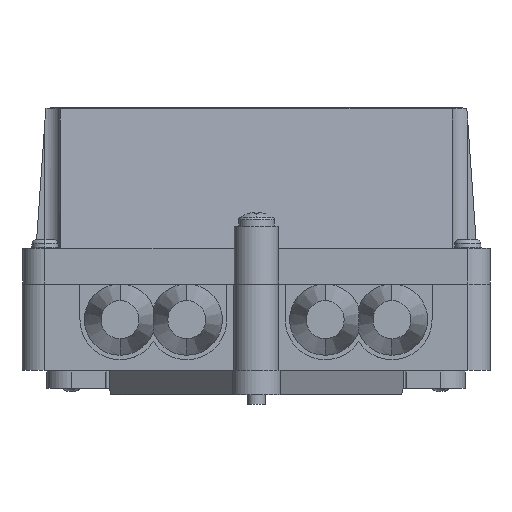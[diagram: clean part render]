
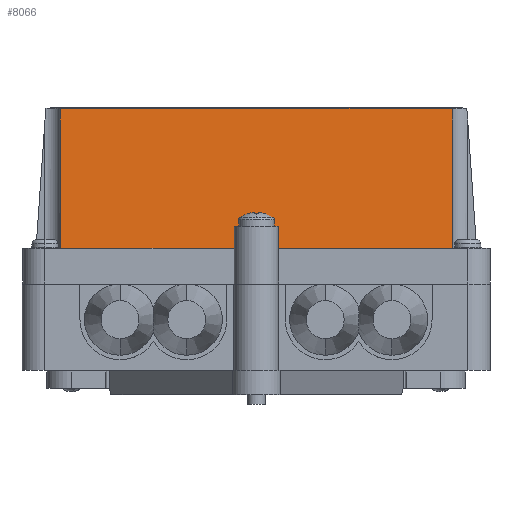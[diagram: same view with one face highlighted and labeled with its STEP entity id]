
A CAD part, front view. The second image highlights one B-rep face of the part: STEP entity #8066.
In plain terms, the highlighted planar face has unit normal (0, -0.998, 0.07).
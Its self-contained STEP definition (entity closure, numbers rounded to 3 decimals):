
#1527 =( BOUNDED_CURVE ( )  B_SPLINE_CURVE ( 3, ( #35055, #12301, #9552, #29576 ),
 .UNSPECIFIED., .F., .F. ) 
 B_SPLINE_CURVE_WITH_KNOTS ( ( 4, 4 ),
 ( 1.571, 1.629 ),
 .UNSPECIFIED. ) 
 CURVE ( )  GEOMETRIC_REPRESENTATION_ITEM ( )  RATIONAL_B_SPLINE_CURVE ( ( 1., 1., 1., 1. ) ) 
 REPRESENTATION_ITEM ( '' )  );
#1858 = LINE ( 'NONE', #22098, #16158 ) ;
#2489 = EDGE_CURVE ( 'NONE', #28515, #27855, #18400, .T. ) ;
#2827 = CARTESIAN_POINT ( 'NONE',  ( 44.835, -21.762, 31.5 ) ) ;
#2964 = LINE ( 'NONE', #6789, #17253 ) ;
#3183 = VERTEX_POINT ( 'NONE', #5767 ) ;
#3451 = EDGE_LOOP ( 'NONE', ( #30348, #30804, #11010, #29971, #12164, #30286, #6837, #24021, #34870, #24157 ) ) ;
#3854 = CARTESIAN_POINT ( 'NONE',  ( 0., -21.762, 31.5 ) ) ;
#4747 = CARTESIAN_POINT ( 'NONE',  ( -4.171, -23.964, 0. ) ) ;
#4961 = DIRECTION ( 'NONE',  ( 1., 0., 0. ) ) ;
#5136 = DIRECTION ( 'NONE',  ( 0., -0.07, -0.998 ) ) ;
#5391 = VECTOR ( 'NONE', #36573, 1000. ) ;
#5767 = CARTESIAN_POINT ( 'NONE',  ( -43.171, -21.964, 28.601 ) ) ;
#5862 = LINE ( 'NONE', #10679, #21082 ) ;
#6156 = EDGE_CURVE ( 'NONE', #7453, #24899, #23523, .T. ) ;
#6164 = VERTEX_POINT ( 'NONE', #16438 ) ;
#6712 = CARTESIAN_POINT ( 'NONE',  ( 44.831, -21.829, 30.535 ) ) ;
#6789 = CARTESIAN_POINT ( 'NONE',  ( -4.171, -23.964, 0. ) ) ;
#6837 = ORIENTED_EDGE ( 'NONE', *, *, #6156, .T. ) ;
#6840 = CARTESIAN_POINT ( 'NONE',  ( 44.829, -21.964, 28.601 ) ) ;
#7453 = VERTEX_POINT ( 'NONE', #14851 ) ;
#7566 = DIRECTION ( 'NONE',  ( 0., 0.07, 0.998 ) ) ;
#7683 = EDGE_CURVE ( 'NONE', #6164, #3183, #1858, .T. ) ;
#7808 = CARTESIAN_POINT ( 'NONE',  ( -48.671, -23.964, 0. ) ) ;
#8066 = ADVANCED_FACE ( 'NONE', ( #16529 ), #15444, .T. ) ;
#8115 = VERTEX_POINT ( 'NONE', #18443 ) ;
#8952 = VECTOR ( 'NONE', #5136, 1000. ) ;
#9022 = EDGE_CURVE ( 'NONE', #22844, #8115, #25817, .T. ) ;
#9552 = CARTESIAN_POINT ( 'NONE',  ( -43.173, -21.829, 30.535 ) ) ;
#9561 = EDGE_CURVE ( 'NONE', #19726, #22844, #34635, .T. ) ;
#9592 = CARTESIAN_POINT ( 'NONE',  ( -4.171, -23.615, 5. ) ) ;
#10562 = DIRECTION ( 'NONE',  ( 1., 0., 0. ) ) ;
#10679 = CARTESIAN_POINT ( 'NONE',  ( -48.671, -23.964, 0. ) ) ;
#11010 = ORIENTED_EDGE ( 'NONE', *, *, #20188, .T. ) ;
#11246 = EDGE_CURVE ( 'NONE', #3183, #19726, #1527, .T. ) ;
#12164 = ORIENTED_EDGE ( 'NONE', *, *, #2489, .F. ) ;
#12301 = CARTESIAN_POINT ( 'NONE',  ( -43.171, -21.897, 29.568 ) ) ;
#12518 = CARTESIAN_POINT ( 'NONE',  ( -48.671, -23.964, 0. ) ) ;
#12693 = CARTESIAN_POINT ( 'NONE',  ( 5.829, -23.615, 5. ) ) ;
#13723 = CARTESIAN_POINT ( 'NONE',  ( -43.177, -21.762, 31.5 ) ) ;
#14851 = CARTESIAN_POINT ( 'NONE',  ( 5.829, -23.964, 0. ) ) ;
#15211 = DIRECTION ( 'NONE',  ( 1., 0., 0. ) ) ;
#15444 = PLANE ( 'NONE',  #36803 ) ;
#15900 = VECTOR ( 'NONE', #4961, 1000. ) ;
#16158 = VECTOR ( 'NONE', #7566, 1000. ) ;
#16438 = CARTESIAN_POINT ( 'NONE',  ( -43.171, -23.964, 0. ) ) ;
#16529 = FACE_OUTER_BOUND ( 'NONE', #3451, .T. ) ;
#17253 = VECTOR ( 'NONE', #23971, 1000. ) ;
#18308 = DIRECTION ( 'NONE',  ( 0., -0.07, -0.998 ) ) ;
#18400 = LINE ( 'NONE', #24254, #32603 ) ;
#18443 = CARTESIAN_POINT ( 'NONE',  ( 44.829, -21.964, 28.601 ) ) ;
#19726 = VERTEX_POINT ( 'NONE', #13723 ) ;
#20188 = EDGE_CURVE ( 'NONE', #6164, #35277, #5862, .T. ) ;
#20618 = LINE ( 'NONE', #28036, #5391 ) ;
#21082 = VECTOR ( 'NONE', #10562, 1000. ) ;
#22098 = CARTESIAN_POINT ( 'NONE',  ( -43.171, -23.964, 0. ) ) ;
#22844 = VERTEX_POINT ( 'NONE', #2827 ) ;
#23523 = LINE ( 'NONE', #7808, #15900 ) ;
#23971 = DIRECTION ( 'NONE',  ( 0., -0.07, -0.998 ) ) ;
#24002 = DIRECTION ( 'NONE',  ( -1., 0., 0. ) ) ;
#24016 = CARTESIAN_POINT ( 'NONE',  ( 44.829, -21.897, 29.568 ) ) ;
#24021 = ORIENTED_EDGE ( 'NONE', *, *, #33393, .F. ) ;
#24157 = ORIENTED_EDGE ( 'NONE', *, *, #9561, .F. ) ;
#24211 = LINE ( 'NONE', #35967, #8952 ) ;
#24254 = CARTESIAN_POINT ( 'NONE',  ( 48.329, -23.615, 5. ) ) ;
#24899 = VERTEX_POINT ( 'NONE', #33458 ) ;
#25817 =( BOUNDED_CURVE ( )  B_SPLINE_CURVE ( 3, ( #35225, #6712, #24016, #6840 ),
 .UNSPECIFIED., .F., .F. ) 
 B_SPLINE_CURVE_WITH_KNOTS ( ( 4, 4 ),
 ( 4.654, 4.712 ),
 .UNSPECIFIED. ) 
 CURVE ( )  GEOMETRIC_REPRESENTATION_ITEM ( )  RATIONAL_B_SPLINE_CURVE ( ( 1., 1., 1., 1. ) ) 
 REPRESENTATION_ITEM ( '' )  );
#26322 = VECTOR ( 'NONE', #15211, 1000. ) ;
#27855 = VERTEX_POINT ( 'NONE', #9592 ) ;
#28036 = CARTESIAN_POINT ( 'NONE',  ( 44.829, -23.964, 0. ) ) ;
#28515 = VERTEX_POINT ( 'NONE', #12693 ) ;
#29576 = CARTESIAN_POINT ( 'NONE',  ( -43.177, -21.762, 31.5 ) ) ;
#29971 = ORIENTED_EDGE ( 'NONE', *, *, #31918, .F. ) ;
#30286 = ORIENTED_EDGE ( 'NONE', *, *, #33347, .T. ) ;
#30348 = ORIENTED_EDGE ( 'NONE', *, *, #11246, .F. ) ;
#30804 = ORIENTED_EDGE ( 'NONE', *, *, #7683, .F. ) ;
#31918 = EDGE_CURVE ( 'NONE', #27855, #35277, #2964, .T. ) ;
#32603 = VECTOR ( 'NONE', #24002, 1000. ) ;
#33347 = EDGE_CURVE ( 'NONE', #28515, #7453, #24211, .T. ) ;
#33393 = EDGE_CURVE ( 'NONE', #8115, #24899, #20618, .T. ) ;
#33458 = CARTESIAN_POINT ( 'NONE',  ( 44.829, -23.964, 0. ) ) ;
#34635 = LINE ( 'NONE', #3854, #26322 ) ;
#34870 = ORIENTED_EDGE ( 'NONE', *, *, #9022, .F. ) ;
#35055 = CARTESIAN_POINT ( 'NONE',  ( -43.171, -21.964, 28.601 ) ) ;
#35225 = CARTESIAN_POINT ( 'NONE',  ( 44.835, -21.762, 31.5 ) ) ;
#35276 = DIRECTION ( 'NONE',  ( 0., -0.998, 0.07 ) ) ;
#35277 = VERTEX_POINT ( 'NONE', #4747 ) ;
#35967 = CARTESIAN_POINT ( 'NONE',  ( 5.829, -24.555, -8.448 ) ) ;
#36573 = DIRECTION ( 'NONE',  ( 0., -0.07, -0.998 ) ) ;
#36803 = AXIS2_PLACEMENT_3D ( 'NONE', #12518, #35276, #18308 ) ;
